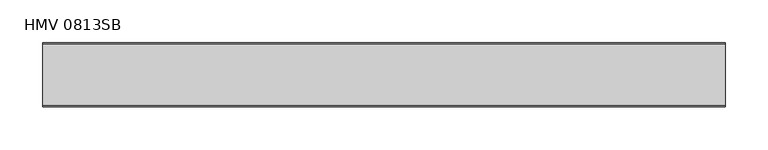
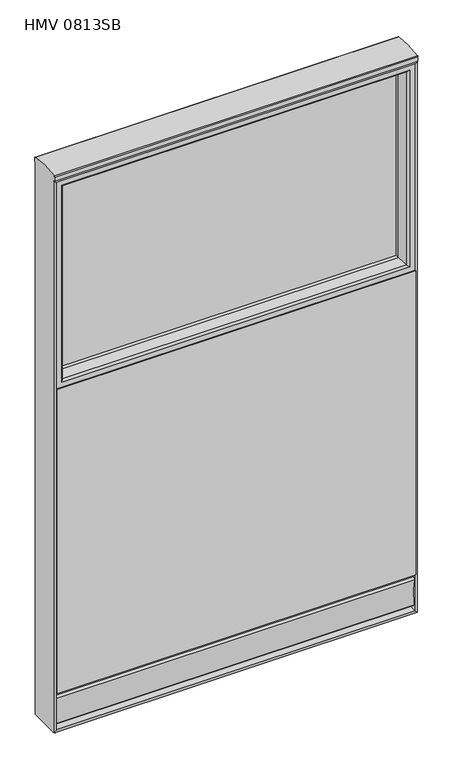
"""IFC4 building model written with IfcOpenShell, lengths in millimetres: furniture geometry, Mobiliário_MobiliáriodeEscritório_LinhaHabitat_PainelHabitatMisto-MelaminaeVidroSemBasculante_Marelli : HMV 0813SB."""

from ifc_helpers import new_model, si_unit, point, frame, frame_2d, origin, place, context, project, spatial, polyline, circle_curve, ellipse_curve, trimmed, segment, composite_curve, outline, extrude, source, transform, mapped, element, save
from ifc_brep_helpers import plane_surface, cylinder_surface, advanced_brep


def hmv_0813sb_63d43438(model_context):
    return source(origin(), model_context, "Body", "SolidModel", [
        extrude(outline(composite_curve([segment(polyline([(55.0, 90.0), (55.0, 80.0), (65.980067, 80.0)]), True, "CONTINUOUS"), segment(trimmed(circle_curve(frame_2d((65.980067, 75.980067)), 4.019933), [point((65.980067, 80.0))], [point((69.831007, 74.8267575))], False, "CARTESIAN"), True, "CONTINUOUS"), segment(trimmed(circle_curve(frame_2d((200.7096213, 43.9493843)), 134.4716471), [point((69.831007, 74.8267575))], [point((68.9861321, 16.9022723))], True, "CARTESIAN"), True, "CONTINUOUS"), segment(trimmed(circle_curve(frame_2d((67.0270055, 16.5)), 2.0), [point((68.9861321, 16.9022723))], [point((67.0270055, 14.5))], False, "CARTESIAN"), True, "CONTINUOUS"), segment(polyline([(67.0270055, 14.5), (55.0, 14.5), (55.0, 4.5), (20.0, 4.5), (20.0, 14.5), (7.9729945, 14.5)]), True, "CONTINUOUS"), segment(trimmed(circle_curve(frame_2d((7.9729945, 16.5)), 2.0), [point((7.9729945, 14.5))], [point((6.0138679, 16.9022723))], False, "CARTESIAN"), True, "CONTINUOUS"), segment(trimmed(circle_curve(frame_2d((-125.7096213, 43.9493843)), 134.4716471), [point((6.0138679, 16.9022723))], [point((5.168993, 74.8267575))], True, "CARTESIAN"), True, "CONTINUOUS"), segment(trimmed(circle_curve(frame_2d((9.019933, 75.980067)), 4.019933), [point((5.168993, 74.8267575))], [point((9.019933, 80.0))], False, "CARTESIAN"), True, "CONTINUOUS"), segment(polyline([(9.019933, 80.0), (20.0, 80.0), (20.0, 90.0), (55.0, 90.0)]), True, "CONTINUOUS")], self_intersect=False)), frame((4.5, 0.0, 0.0), z_axis=(1.0, 0.0, 0.0), x_axis=(0.0, 1.0, 0.0)), (0.0, 0.0, 1.0), 791.0),
        advanced_brep(
        [(0.0, 0.0, 1284.4135569), (0.0, 0.0, 1294.184829), (0.0, 1.4147018, 1296.2946718), (0.0, 73.7415241, 1296.2666026), (0.0, 75.0, 1294.2721511), (0.0, 75.0, 1284.4135569), (0.0, 72.75, 1284.4135569), (0.0, 72.75, 0.0), (0.0, 2.25, 0.0), (0.0, 2.25, 1284.4135569), (800.0, 75.0, 1284.4135569), (800.0, 75.0, 1294.2721511), (800.0, 73.7415241, 1296.2666026), (800.0, 1.4147018, 1296.2946718), (800.0, 0.0, 1294.184829), (800.0, 0.0, 1284.4135569), (800.0, 2.25, 1284.4135569), (800.0, 2.25, 0.0), (800.0, 72.75, 0.0), (800.0, 72.75, 1284.4135569), (4.5, 72.75, 4.5), (795.5, 72.75, 4.5), (795.5, 2.25, 4.5), (4.5, 2.25, 4.5), (795.5, 72.75, 1279.9135569), (795.5, 2.25, 1279.9135569), (4.5, 72.75, 1279.9135569), (4.5, 2.25, 1279.9135569)],
        [
            (0, 1),
            (1, 2, circle_curve(frame((0.0, 2.2806283, 1294.184829), z_axis=(-1.0, 0.0, 0.0), x_axis=(0.0, 1.0, 0.0)), 2.2806283)),
            (2, 3, circle_curve(frame((0.0, 37.5106051, 1122.3310283), z_axis=(-1.0, 0.0, 0.0), x_axis=(0.0, 1.0, 0.0)), 177.6689717)),
            (3, 4, circle_curve(frame((0.0, 72.7903437, 1294.2721511), z_axis=(-1.0, 0.0, 0.0), x_axis=(0.0, 1.0, 0.0)), 2.2096563)),
            (4, 5),
            (5, 6),
            (6, 7),
            (7, 8),
            (8, 9),
            (9, 0),
            (10, 11),
            (11, 12, circle_curve(frame((800.0, 72.7903437, 1294.2721511), z_axis=(1.0, 0.0, 0.0), x_axis=(0.0, 1.0, 0.0)), 2.2096563)),
            (12, 13, circle_curve(frame((800.0, 37.5106051, 1122.3310283), z_axis=(1.0, 0.0, 0.0), x_axis=(0.0, 1.0, 0.0)), 177.6689717)),
            (13, 14, circle_curve(frame((800.0, 2.2806283, 1294.184829), z_axis=(1.0, 0.0, 0.0), x_axis=(0.0, 1.0, 0.0)), 2.2806283)),
            (14, 15),
            (15, 16),
            (16, 17),
            (17, 18),
            (18, 19),
            (19, 10),
            (4, 11),
            (10, 5),
            (3, 12),
            (2, 13),
            (1, 14),
            (0, 15),
            (19, 6),
            (9, 16),
            (7, 20, ellipse_curve(frame((2.25, 72.75, 2.25), z_axis=(0.7071067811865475, 0.0, -0.7071067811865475), x_axis=(-0.7071067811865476, 0.0, -0.7071067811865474)), 3.1819805, 2.25)),
            (20, 21),
            (21, 18, ellipse_curve(frame((797.75, 72.75, 2.25), z_axis=(-0.7071067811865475, 0.0, -0.7071067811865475), x_axis=(-0.7071067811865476, 0.0, 0.7071067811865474)), 3.1819805, 2.25)),
            (18, 7),
            (17, 8),
            (17, 22, ellipse_curve(frame((797.75, 2.25, 2.25), z_axis=(-0.7071067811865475, 0.0, -0.7071067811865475), x_axis=(-0.7071067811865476, 0.0, 0.7071067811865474)), 3.1819805, 2.25)),
            (22, 23),
            (23, 8, ellipse_curve(frame((2.25, 2.25, 2.25), z_axis=(0.7071067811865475, 0.0, -0.7071067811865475), x_axis=(-0.7071067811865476, 0.0, -0.7071067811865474)), 3.1819805, 2.25)),
            (20, 23),
            (22, 21),
            (21, 24),
            (24, 19, ellipse_curve(frame((797.75, 72.75, 1282.1635569), z_axis=(0.7071067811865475, 0.0, -0.7071067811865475), x_axis=(-0.7071067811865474, 0.0, -0.7071067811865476)), 3.1819805, 2.25)),
            (16, 25, ellipse_curve(frame((797.75, 2.25, 1282.1635569), z_axis=(0.7071067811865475, 0.0, -0.7071067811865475), x_axis=(-0.7071067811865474, 0.0, -0.7071067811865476)), 3.1819805, 2.25)),
            (25, 22),
            (25, 24),
            (24, 26),
            (26, 6, ellipse_curve(frame((2.25, 72.75, 1282.1635569), z_axis=(0.7071067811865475, 0.0, 0.7071067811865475), x_axis=(0.7071067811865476, 0.0, -0.7071067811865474)), 3.1819805, 2.25)),
            (9, 27, ellipse_curve(frame((2.25, 2.25, 1282.1635569), z_axis=(0.7071067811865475, 0.0, 0.7071067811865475), x_axis=(0.7071067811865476, 0.0, -0.7071067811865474)), 3.1819805, 2.25)),
            (27, 25),
            (27, 26),
            (26, 20),
            (23, 27),
        ],
        [
            plane_surface(frame((0.0, 75.0, 1294.2721511), z_axis=(-1.0, 0.0, 0.0), x_axis=(0.0, 0.0, -1.0))),
            plane_surface(frame((800.0, 75.0, 1294.2721511), z_axis=(1.0, 0.0, 0.0), x_axis=(0.0, 0.0, 1.0))),
            plane_surface(frame((800.0, 75.0, 1284.4135569), z_axis=(0.0, 1.0, 0.0), x_axis=(-1.0, 0.0, 0.0))),
            cylinder_surface(frame((0.0, 72.7903437, 1294.2721511), z_axis=(1.0, 0.0, 0.0), x_axis=(0.0, 1.0, 0.0)), 2.2096563),
            cylinder_surface(frame((0.0, 37.5106051, 1122.3310283), z_axis=(1.0, 0.0, 0.0), x_axis=(0.0, 1.0, 0.0)), 177.6689717),
            cylinder_surface(frame((0.0, 2.2806283, 1294.184829), z_axis=(1.0, 0.0, 0.0), x_axis=(0.0, 1.0, 0.0)), 2.2806283),
            plane_surface(frame((800.0, 0.0, 1294.184829), z_axis=(0.0, -1.0, 0.0), x_axis=(-1.0, 0.0, 0.0))),
            plane_surface(frame((800.0, 0.0, 1284.4135569), z_axis=(0.0, 0.0, -1.0), x_axis=(-1.0, 0.0, 0.0))),
            cylinder_surface(frame((0.0, 72.75, 2.25), z_axis=(-1.0, 0.0, 0.0), x_axis=(0.0, -1.0, 0.0)), 2.25),
            plane_surface(frame((0.0, 72.75, 0.0), z_axis=(0.0, 0.0, -1.0), x_axis=(1.0, 0.0, 0.0))),
            cylinder_surface(frame((0.0, 2.25, 2.25), z_axis=(-1.0, 0.0, 0.0), x_axis=(0.0, -1.0, 0.0)), 2.25),
            plane_surface(frame((4.5, 2.25, 4.5), z_axis=(0.0, 0.0, 1.0), x_axis=(1.0, 0.0, 0.0))),
            cylinder_surface(frame((797.75, 72.75, 0.0), z_axis=(0.0, 0.0, -1.0), x_axis=(0.0, -1.0, 0.0)), 2.25),
            cylinder_surface(frame((797.75, 2.25, 0.0), z_axis=(0.0, 0.0, -1.0), x_axis=(0.0, -1.0, 0.0)), 2.25),
            plane_surface(frame((795.5, 2.25, 4.5), z_axis=(-1.0, 0.0, 0.0), x_axis=(0.0, 0.0, 1.0))),
            cylinder_surface(frame((800.0, 72.75, 1282.1635569), z_axis=(1.0, 0.0, 0.0), x_axis=(0.0, -1.0, 0.0)), 2.25),
            cylinder_surface(frame((800.0, 2.25, 1282.1635569), z_axis=(1.0, 0.0, 0.0), x_axis=(0.0, -1.0, 0.0)), 2.25),
            plane_surface(frame((795.5, 2.25, 1279.9135569), z_axis=(0.0, 0.0, -1.0), x_axis=(-1.0, 0.0, 0.0))),
            cylinder_surface(frame((2.25, 72.75, 1284.4135569), z_axis=(0.0, 0.0, 1.0), x_axis=(0.0, -1.0, 0.0)), 2.25),
            cylinder_surface(frame((2.25, 2.25, 1284.4135569), z_axis=(0.0, 0.0, 1.0), x_axis=(0.0, -1.0, 0.0)), 2.25),
            plane_surface(frame((4.5, 2.25, 1279.9135569), z_axis=(1.0, 0.0, 0.0), x_axis=(0.0, 0.0, -1.0))),
        ],
        [
            (0, [[1, 2, 3, 4, 5, 6, 7, 8, 9, 10]]),
            (1, [[11, 12, 13, 14, 15, 16, 17, 18, 19, 20]]),
            (2, [[-5, 21, -11, 22]]),
            (3, [[-4, 23, -12, -21]]),
            (4, [[-3, 24, -13, -23]]),
            (5, [[-2, 25, -14, -24]]),
            (6, [[-1, 26, -15, -25]]),
            (7, [[-22, -20, 27, -6]]),
            (7, [[-26, -10, 28, -16]]),
            (8, [[29, 30, 31, 32]]),
            (9, [[-32, -18, 33, -8]]),
            (10, [[-33, 34, 35, 36]]),
            (11, [[-30, 37, -35, 38]]),
            (12, [[-31, 39, 40, -19]]),
            (13, [[-34, -17, 41, 42]]),
            (14, [[-38, -42, 43, -39]]),
            (15, [[-40, 44, 45, -27]]),
            (16, [[-41, -28, 46, 47]]),
            (17, [[-43, -47, 48, -44]]),
            (18, [[-29, -7, -45, 49]]),
            (19, [[-36, 50, -46, -9]]),
            (20, [[-37, -49, -48, -50]]),
        ],
    ),
        extrude(outline(polyline([(795.5, 75.0), (795.5, 0.0), (4.5, 0.0), (4.5, 75.0), (795.5, 75.0)])), frame((0.0, 0.0, 90.0), z_axis=(0.0, 0.0, 1.0), x_axis=(1.0, 0.0, 0.0)), (0.0, 0.0, 1.0), 707.5),
        advanced_brep(
        [(795.5, 2.5, 797.5), (795.5, 72.5, 797.5), (795.5, 72.5, 1279.9135569), (795.5, 2.5, 1279.9135569), (779.3, 6.3, 813.7), (783.1, 2.5, 809.9), (783.1, 2.5, 1267.5135569), (779.3, 6.3, 1263.7135569), (773.0, 27.5, 820.0), (773.0, 27.5, 1257.4135569), (773.0, 47.5, 820.0), (773.0, 47.5, 1257.4135569), (779.3, 68.7, 813.7), (779.3, 68.7, 1263.7135569), (783.1, 72.5, 809.9), (783.1, 72.5, 1267.5135569), (4.5, 72.5, 1279.9135569), (4.5, 2.5, 1279.9135569), (16.9, 2.5, 1267.5135569), (20.7, 6.3, 1263.7135569), (27.0, 27.5, 1257.4135569), (27.0, 47.5, 1257.4135569), (20.7, 68.7, 1263.7135569), (16.9, 72.5, 1267.5135569), (4.5, 72.5, 797.5), (4.5, 2.5, 797.5), (16.9, 2.5, 809.9), (20.7, 6.3, 813.7), (27.0, 27.5, 820.0), (27.0, 47.5, 820.0), (20.7, 68.7, 813.7), (16.9, 72.5, 809.9)],
        [
            (0, 1),
            (1, 2),
            (2, 3),
            (3, 0),
            (4, 5, ellipse_curve(frame((785.2236888, 8.4236888, 807.7763112), z_axis=(0.7071067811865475, 0.0, 0.7071067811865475), x_axis=(0.7071067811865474, 0.0, -0.7071067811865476)), 8.8994542, 6.2928644)),
            (5, 6),
            (6, 7, ellipse_curve(frame((785.2236888, 8.4236888, 1269.6372457), z_axis=(0.7071067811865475, 0.0, -0.7071067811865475), x_axis=(-0.7071067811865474, 0.0, -0.7071067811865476)), 8.8994542, 6.2928644)),
            (7, 4),
            (8, 4),
            (7, 9),
            (9, 8),
            (10, 8),
            (9, 11),
            (11, 10),
            (12, 10),
            (11, 13),
            (13, 12),
            (14, 12, ellipse_curve(frame((785.2236888, 66.5763112, 807.7763112), z_axis=(0.7071067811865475, 0.0, 0.7071067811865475), x_axis=(0.7071067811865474, 0.0, -0.7071067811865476)), 8.8994542, 6.2928644)),
            (13, 15, ellipse_curve(frame((785.2236888, 66.5763112, 1269.6372457), z_axis=(0.7071067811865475, 0.0, -0.7071067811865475), x_axis=(-0.7071067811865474, 0.0, -0.7071067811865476)), 8.8994542, 6.2928644)),
            (15, 14),
            (2, 16),
            (16, 17),
            (17, 3),
            (6, 18),
            (18, 19, ellipse_curve(frame((14.7763112, 8.4236888, 1269.6372457), z_axis=(0.7071067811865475, 0.0, 0.7071067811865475), x_axis=(0.7071067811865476, 0.0, -0.7071067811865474)), 8.8994542, 6.2928644)),
            (19, 7),
            (19, 20),
            (20, 9),
            (20, 21),
            (21, 11),
            (21, 22),
            (22, 13),
            (22, 23, ellipse_curve(frame((14.7763112, 66.5763112, 1269.6372457), z_axis=(0.7071067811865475, 0.0, 0.7071067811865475), x_axis=(0.7071067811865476, 0.0, -0.7071067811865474)), 8.8994542, 6.2928644)),
            (23, 15),
            (16, 24),
            (24, 25),
            (25, 17),
            (18, 26),
            (26, 27, ellipse_curve(frame((14.7763112, 8.4236888, 807.7763112), z_axis=(-0.7071067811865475, 0.0, 0.7071067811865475), x_axis=(0.7071067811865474, 0.0, 0.7071067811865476)), 8.8994542, 6.2928644)),
            (27, 19),
            (27, 28),
            (28, 20),
            (28, 29),
            (29, 21),
            (29, 30),
            (30, 22),
            (30, 31, ellipse_curve(frame((14.7763112, 66.5763112, 807.7763112), z_axis=(-0.7071067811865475, 0.0, 0.7071067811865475), x_axis=(0.7071067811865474, 0.0, 0.7071067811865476)), 8.8994542, 6.2928644)),
            (31, 23),
            (24, 1),
            (0, 25),
            (5, 26),
            (4, 27),
            (8, 28),
            (10, 29),
            (12, 30),
            (14, 31),
        ],
        [
            plane_surface(frame((795.5, 72.5, 797.5), z_axis=(1.0, 0.0, 0.0), x_axis=(0.0, 0.0, 1.0))),
            cylinder_surface(frame((785.2236888, 8.4236888, 797.5), z_axis=(0.0, 0.0, -1.0), x_axis=(-1.0, 0.0, 0.0)), 6.2928644),
            plane_surface(frame((779.3, 6.3, 813.7), z_axis=(-0.9585697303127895, -0.2848579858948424, 0.0), x_axis=(0.0, 0.0, 1.0))),
            plane_surface(frame((773.0, 27.5, 820.0), z_axis=(-1.0, 0.0, 0.0), x_axis=(0.0, 0.0, 1.0))),
            plane_surface(frame((773.0, 47.5, 820.0), z_axis=(-0.9585697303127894, 0.2848579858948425, 0.0), x_axis=(0.0, 0.0, 1.0))),
            cylinder_surface(frame((785.2236888, 66.5763112, 797.5), z_axis=(0.0, 0.0, -1.0), x_axis=(-1.0, 0.0, 0.0)), 6.2928644),
            plane_surface(frame((795.5, 72.5, 1279.9135569), z_axis=(0.0, 0.0, 1.0), x_axis=(-1.0, 0.0, 0.0))),
            cylinder_surface(frame((795.5, 8.4236888, 1269.6372457), z_axis=(1.0, 0.0, 0.0), x_axis=(0.0, 0.0, -1.0)), 6.2928644),
            plane_surface(frame((779.3, 6.3, 1263.7135569), z_axis=(0.0, -0.2848579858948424, -0.9585697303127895), x_axis=(-1.0, 0.0, 0.0))),
            plane_surface(frame((773.0, 27.5, 1257.4135569), z_axis=(0.0, 0.0, -1.0), x_axis=(-1.0, 0.0, 0.0))),
            plane_surface(frame((773.0, 47.5, 1257.4135569), z_axis=(0.0, 0.2848579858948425, -0.9585697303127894), x_axis=(-1.0, 0.0, 0.0))),
            cylinder_surface(frame((795.5, 66.5763112, 1269.6372457), z_axis=(1.0, 0.0, 0.0), x_axis=(0.0, 0.0, -1.0)), 6.2928644),
            plane_surface(frame((4.5, 72.5, 1279.9135569), z_axis=(-1.0, 0.0, 0.0), x_axis=(0.0, 0.0, -1.0))),
            cylinder_surface(frame((14.7763112, 8.4236888, 1279.9135569), z_axis=(0.0, 0.0, 1.0), x_axis=(1.0, 0.0, 0.0)), 6.2928644),
            plane_surface(frame((20.7, 6.3, 1263.7135569), z_axis=(0.9585697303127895, -0.2848579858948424, 0.0), x_axis=(0.0, 0.0, -1.0))),
            plane_surface(frame((27.0, 27.5, 1257.4135569), z_axis=(1.0, 0.0, 0.0), x_axis=(0.0, 0.0, -1.0))),
            plane_surface(frame((27.0, 47.5, 1257.4135569), z_axis=(0.9585697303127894, 0.2848579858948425, 0.0), x_axis=(0.0, 0.0, -1.0))),
            cylinder_surface(frame((14.7763112, 66.5763112, 1279.9135569), z_axis=(0.0, 0.0, 1.0), x_axis=(1.0, 0.0, 0.0)), 6.2928644),
            plane_surface(frame((4.5, 72.5, 797.5), z_axis=(0.0, 0.0, -1.0), x_axis=(1.0, 0.0, 0.0))),
            plane_surface(frame((4.5, 2.5, 797.5), z_axis=(0.0, -1.0, 0.0), x_axis=(1.0, 0.0, 0.0))),
            cylinder_surface(frame((4.5, 8.4236888, 807.7763112), z_axis=(-1.0, 0.0, 0.0), x_axis=(0.0, 0.0, 1.0)), 6.2928644),
            plane_surface(frame((20.7, 6.3, 813.7), z_axis=(0.0, -0.2848579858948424, 0.9585697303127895), x_axis=(1.0, 0.0, 0.0))),
            plane_surface(frame((27.0, 27.5, 820.0), z_axis=(0.0, 0.0, 1.0), x_axis=(1.0, 0.0, 0.0))),
            plane_surface(frame((27.0, 47.5, 820.0), z_axis=(0.0, 0.2848579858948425, 0.9585697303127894), x_axis=(1.0, 0.0, 0.0))),
            cylinder_surface(frame((4.5, 66.5763112, 807.7763112), z_axis=(-1.0, 0.0, 0.0), x_axis=(0.0, 0.0, 1.0)), 6.2928644),
            plane_surface(frame((16.9, 72.5, 809.9), z_axis=(0.0, 1.0, 0.0), x_axis=(1.0, 0.0, 0.0))),
        ],
        [
            (0, [[1, 2, 3, 4]]),
            (1, [[5, 6, 7, 8]]),
            (2, [[9, -8, 10, 11]]),
            (3, [[12, -11, 13, 14]]),
            (4, [[15, -14, 16, 17]]),
            (5, [[18, -17, 19, 20]]),
            (6, [[-3, 21, 22, 23]]),
            (7, [[-7, 24, 25, 26]]),
            (8, [[-10, -26, 27, 28]]),
            (9, [[-13, -28, 29, 30]]),
            (10, [[-16, -30, 31, 32]]),
            (11, [[-19, -32, 33, 34]]),
            (12, [[-22, 35, 36, 37]]),
            (13, [[-25, 38, 39, 40]]),
            (14, [[-27, -40, 41, 42]]),
            (15, [[-29, -42, 43, 44]]),
            (16, [[-31, -44, 45, 46]]),
            (17, [[-33, -46, 47, 48]]),
            (18, [[-36, 49, -1, 50]]),
            (19, [[-23, -37, -50, -4], [51, -38, -24, -6]]),
            (20, [[-39, -51, -5, 52]]),
            (21, [[-41, -52, -9, 53]]),
            (22, [[-43, -53, -12, 54]]),
            (23, [[-45, -54, -15, 55]]),
            (24, [[-47, -55, -18, 56]]),
            (25, [[-49, -35, -21, -2], [-34, -48, -56, -20]]),
        ],
    ),
        extrude(outline(polyline([(773.0, 35.5), (27.0, 35.5), (27.0, 39.5), (773.0, 39.5), (773.0, 35.5)])), frame((0.0, 0.0, 820.0), z_axis=(0.0, 0.0, 1.0), x_axis=(1.0, 0.0, 0.0)), (0.0, 0.0, 1.0), 437.4135569),
    ])


if __name__ == "__main__":
    model = new_model("IFC4")
    model_context = context("Model", 3, world=origin())
    ifc_project = project(units=[si_unit("LENGTHUNIT", "METRE", prefix="MILLI")], contexts=[model_context])
    site = spatial("IfcSite", under=ifc_project)
    building = spatial("IfcBuilding", under=site)
    placement = place(None, origin())
    hmv_0813sb_shape = hmv_0813sb_63d43438(model_context)
    element("IfcFurniture", 1, ObjectType="Mobiliário_MobiliáriodeEscritório_LinhaHabitat_PainelHabitatMisto-MelaminaeVidroSemBasculante_Marelli : HMV 0813SB", at=placement, inside=building, context=model_context, shape_type="MappedRepresentation", body=[
        mapped(hmv_0813sb_shape, transform((0.0, 0.0, 0.0), x_axis=(1.0, 0.0, 0.0), y_axis=(0.0, 1.0, 0.0), z_axis=(0.0, 0.0, 1.0))),
    ])
    save(model, "model.ifc")
